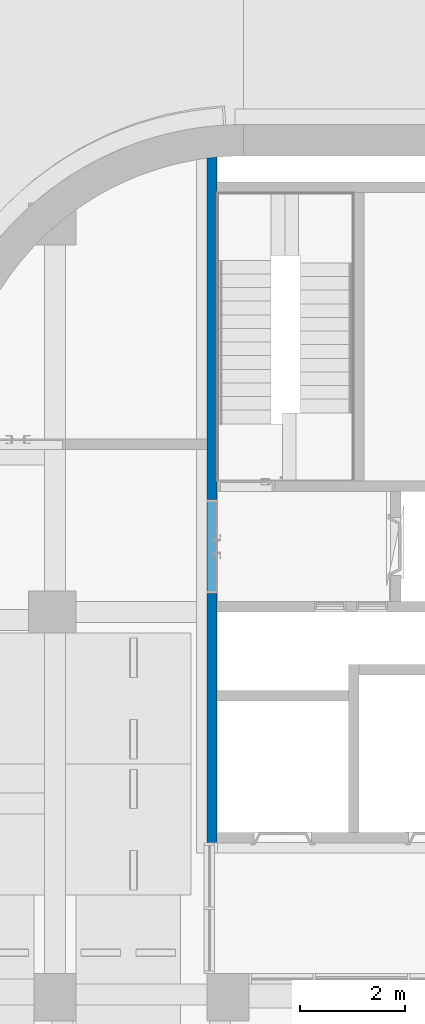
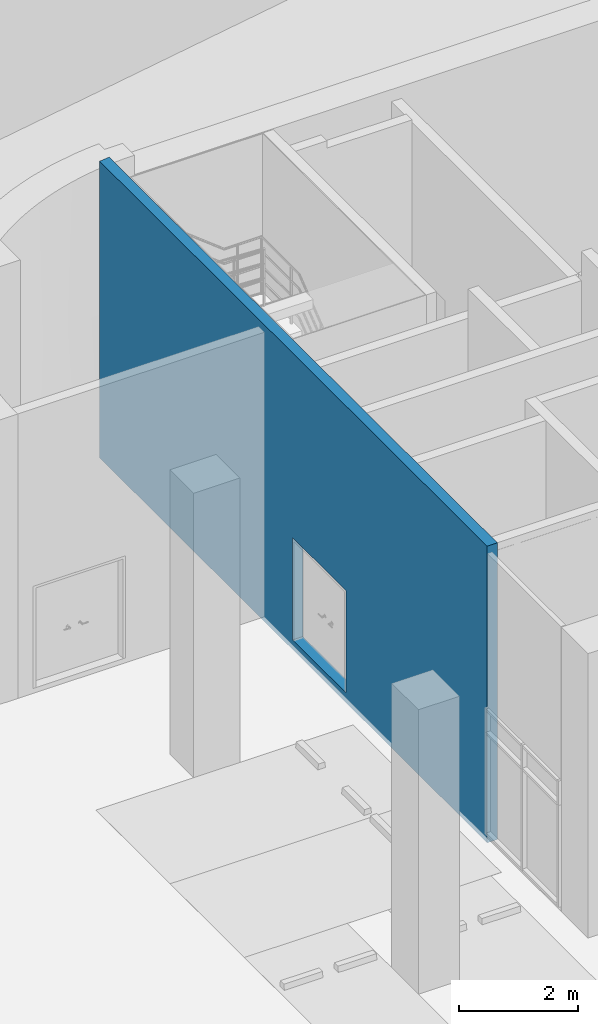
# One storey, part 10 of 29: 1 wall, 1 opening.
"""IFC2X3 building model written with IfcOpenShell, lengths in millimetres."""

from ifc_helpers import new_model, entity, si_unit, converted_unit, derived_unit, direction, frame, frame_2d, origin, place, context, subcontext, project, spatial, polyline, circle_curve, parameter, trimmed, segment, composite_curve, rectangle, outline, extrude, material, layer, layer_set, layer_usage, type_object, element, save


model = new_model("IFC2X3")

# Units and contexts
model_context = context("Model", 3, precision=0.01, world=origin(), true_north=direction((6.123031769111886e-17, 1.0)))
body_context = subcontext(model_context, "Body", "Model", "MODEL_VIEW")
ifc_project = project(units=[si_unit("LENGTHUNIT", "METRE", prefix="MILLI"), si_unit("AREAUNIT", "SQUARE_METRE"), si_unit("VOLUMEUNIT", "CUBIC_METRE"), converted_unit("PLANEANGLEUNIT", "DEGREE", entity("IfcRatioMeasure", 0.017453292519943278), si_unit("PLANEANGLEUNIT", "RADIAN"), dimensions=[0, 0, 0, 0, 0, 0, 0]), si_unit("MASSUNIT", "GRAM", prefix="KILO"), derived_unit("MASSDENSITYUNIT", [(si_unit("MASSUNIT", "GRAM", prefix="KILO"), 1), (si_unit("LENGTHUNIT", "METRE"), -3)]), derived_unit("MOMENTOFINERTIAUNIT", [(si_unit("LENGTHUNIT", "METRE"), 4)]), si_unit("TIMEUNIT", "SECOND"), si_unit("FREQUENCYUNIT", "HERTZ"), si_unit("THERMODYNAMICTEMPERATUREUNIT", "DEGREE_CELSIUS"), derived_unit("THERMALTRANSMITTANCEUNIT", [(si_unit("MASSUNIT", "GRAM", prefix="KILO"), 1), (si_unit("THERMODYNAMICTEMPERATUREUNIT", "KELVIN"), -1), (si_unit("TIMEUNIT", "SECOND"), -3)]), derived_unit("VOLUMETRICFLOWRATEUNIT", [(si_unit("LENGTHUNIT", "METRE"), 3), (si_unit("TIMEUNIT", "SECOND"), -1)]), derived_unit("MASSFLOWRATEUNIT", [(si_unit("MASSUNIT", "GRAM", prefix="KILO"), 1), (si_unit("TIMEUNIT", "SECOND"), -1)]), derived_unit("ROTATIONALFREQUENCYUNIT", [(si_unit("TIMEUNIT", "SECOND"), -1)]), si_unit("ELECTRICCURRENTUNIT", "AMPERE"), si_unit("ELECTRICVOLTAGEUNIT", "VOLT"), si_unit("POWERUNIT", "WATT"), si_unit("FORCEUNIT", "NEWTON", prefix="KILO"), si_unit("ILLUMINANCEUNIT", "LUX"), si_unit("LUMINOUSFLUXUNIT", "LUMEN"), si_unit("LUMINOUSINTENSITYUNIT", "CANDELA"), derived_unit("USERDEFINED", [(si_unit("MASSUNIT", "GRAM", prefix="KILO"), -1), (si_unit("LENGTHUNIT", "METRE"), -2), (si_unit("TIMEUNIT", "SECOND"), 3), (si_unit("LUMINOUSFLUXUNIT", "LUMEN"), 1)]), derived_unit("SOUNDPOWERUNIT", [(si_unit("MASSUNIT", "GRAM", prefix="KILO"), 1), (si_unit("LENGTHUNIT", "METRE"), 2), (si_unit("TIMEUNIT", "SECOND"), -3)]), derived_unit("SOUNDPRESSUREUNIT", [(si_unit("MASSUNIT", "GRAM", prefix="KILO"), 1), (si_unit("LENGTHUNIT", "METRE"), -1), (si_unit("TIMEUNIT", "SECOND"), -2)]), derived_unit("LINEARVELOCITYUNIT", [(si_unit("LENGTHUNIT", "METRE"), 1), (si_unit("TIMEUNIT", "SECOND"), -1)]), si_unit("PRESSUREUNIT", "PASCAL"), derived_unit("USERDEFINED", [(si_unit("LENGTHUNIT", "METRE"), -2), (si_unit("MASSUNIT", "GRAM", prefix="KILO"), 1), (si_unit("TIMEUNIT", "SECOND"), -2)]), derived_unit("LINEARFORCEUNIT", [(si_unit("MASSUNIT", "GRAM", prefix="KILO"), 1), (si_unit("LENGTHUNIT", "METRE"), 1), (si_unit("TIMEUNIT", "SECOND"), -2), (si_unit("LENGTHUNIT", "METRE"), -1)]), derived_unit("PLANARFORCEUNIT", [(si_unit("MASSUNIT", "GRAM", prefix="KILO"), 1), (si_unit("LENGTHUNIT", "METRE"), 1), (si_unit("TIMEUNIT", "SECOND"), -2), (si_unit("LENGTHUNIT", "METRE"), -2)])], contexts=[model_context])

# Site, building, storey
site_placement = place(None, frame((-14167.972527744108, -657.2125860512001, 0.0)))
site = spatial("IfcSite", under=ifc_project, at=site_placement, Name="Default", CompositionType="ELEMENT")
building_placement = place(site_placement, origin())
building = spatial("IfcBuilding", under=site, at=building_placement, Name="Sample Building", CompositionType="ELEMENT")
storey_placement = place(building_placement, frame((0.0, 0.0, -6100.0)))
storey = spatial("IfcBuildingStorey", under=building, at=storey_placement, Name="지하1층", CompositionType="ELEMENT", Elevation=-6099.999999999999)

# Wall, opening
ifc_material = material(Name="KBIMS-콘크리트")
ifc_layer = layer(ifc_material, 200.0)
ifc_layer_set = layer_set([ifc_layer], Name="기본 벽:WA111-철근콘크리트구조 벽 200mm_CW1")
ifc_layer_usage = layer_usage(ifc_layer_set, "AXIS2", "NEGATIVE", 100.0)
wall_type = type_object("IfcWallType", Name="기본 벽:WA111-철근콘크리트구조 벽 200mm_CW1", PredefinedType="STANDARD", material=ifc_layer_set)
wall_placement = place(storey_placement, frame((30166.125814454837, 15553.302947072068, 0.0), z_axis=(0.0, 0.0, 1.0), x_axis=(0.0, 1.0, 0.0)))
wall = element("IfcWallStandardCase", 1, at=wall_placement, inside=storey, type_object=wall_type, material=ifc_layer_usage, Name="기본 벽:WA111-철근콘크리트구조 벽 200mm_CW1", ObjectType="기본 벽:WA111-철근콘크리트구조 벽 200mm_CW1", context=body_context, shape_type="SweptSolid", body=[
    extrude(outline(composite_curve([segment(trimmed(circle_curve(frame_2d((7603.909360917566, -601.8466766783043), x_axis=(0.0, -1.0)), 5499.999999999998), [parameter(95.23522645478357)], [parameter(97.33141767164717)], True, "PARAMETER"), True, "CONTINUOUS"), segment(polyline([(13058.944763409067, 100.0), (7703.909360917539, 100.0)]), True, "CONTINUOUS"), segment(polyline([(7703.909360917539, 100.0), (7503.909360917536, 100.0)]), True, "CONTINUOUS"), segment(polyline([(7503.909360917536, 100.0), (0.0, 100.0)]), True, "CONTINUOUS"), segment(polyline([(0.0, 100.0), (0.0, -100.0)]), True, "CONTINUOUS"), segment(polyline([(0.0, -100.0), (3.909638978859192, -100.0)]), True, "CONTINUOUS"), segment(polyline([(3.909638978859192, -100.0), (200.0, -100.0)]), True, "CONTINUOUS"), segment(polyline([(200.0, -100.0), (2703.9093625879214, -100.0)]), True, "CONTINUOUS"), segment(polyline([(2703.9093625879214, -100.0), (2903.9093625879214, -100.0)]), True, "CONTINUOUS"), segment(polyline([(2903.9093625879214, -100.0), (4403.909360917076, -100.0)]), True, "CONTINUOUS"), segment(polyline([(4403.909360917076, -100.0), (4603.909360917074, -100.0)]), True, "CONTINUOUS"), segment(polyline([(4603.909360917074, -100.0), (6703.909364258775, -100.0)]), True, "CONTINUOUS"), segment(polyline([(6703.909364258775, -100.0), (6903.909364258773, -100.0)]), True, "CONTINUOUS"), segment(polyline([(6903.909364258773, -100.0), (12403.909360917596, -100.0)]), True, "CONTINUOUS"), segment(polyline([(12403.909360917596, -100.0), (12603.909360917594, -100.0)]), True, "CONTINUOUS"), segment(polyline([(12603.909360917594, -100.0), (13080.966044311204, -100.0)]), True, "CONTINUOUS")], self_intersect=False)), origin(), (0.0, 0.0, 1.0), 6100.0),
])
opening_placement = place(wall_placement, frame((6553.909362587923, 100.0, 200.0)))
element("IfcOpeningElement", 2, at=opening_placement, cuts=wall, Name="DR121-쌍여닫이문(철재, 방화문):DR121-쌍여닫이문(철재, 방화문) 1800x2100mm:1", ObjectType="Opening", context=body_context, shape_type="SweptSolid", body=[
    extrude(rectangle(XDim=2099.999999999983, YDim=1799.9999999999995, at=frame_2d((1049.9999999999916, 899.9999999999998), x_axis=(1.0, 0.0))), frame((0.0, 0.0, 0.0), z_axis=(0.0, -1.0, 0.0), x_axis=(0.0, 0.0, 1.0)), (0.0, 0.0, 1.0), 200.0),
])

save(model, "model.ifc")
